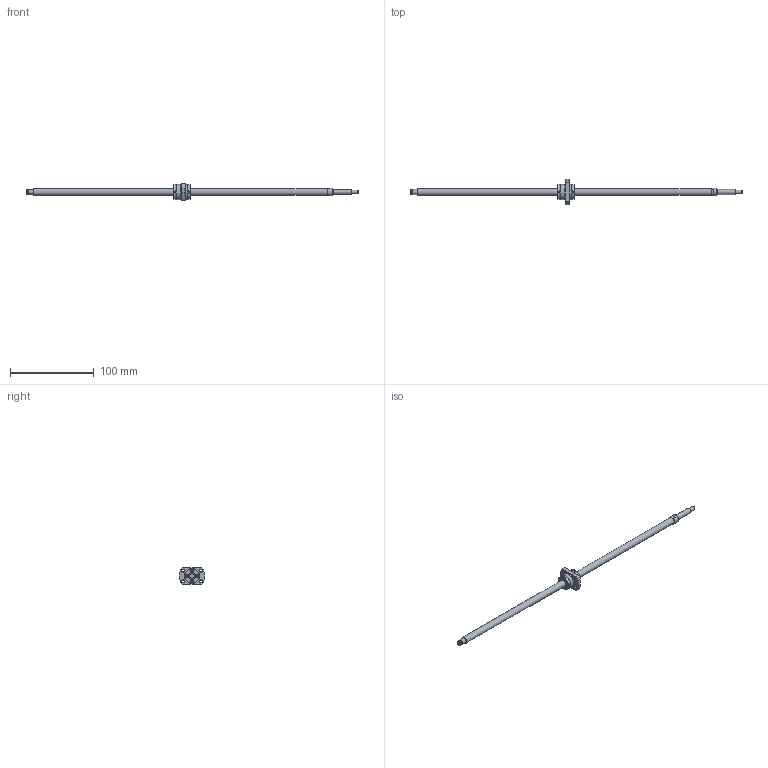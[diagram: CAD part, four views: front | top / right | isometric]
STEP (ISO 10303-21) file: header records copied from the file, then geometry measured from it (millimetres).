
FILE_DESCRIPTION(/* description */ ('STEP AP214'),/* implementation_level */ '2;1');
FILE_NAME(/* name */ 'SRT0808-347R397C7B0X(167.5Processing)',/* time_stamp */ '2026-08-04T20:04:23+02:00',/* author */ ('License CC BY-ND 4.0'),/* organization */ ('CADENAS'),/* preprocessor_version */ 'ST-DEVELOPER v20',/* originating_system */ 'PARTsolutions',/* authorisation */ ' ');
FILE_SCHEMA (('AUTOMOTIVE_DESIGN {1 0 10303 214 3 1 1}'));
Length unit declared in the file: millimetre
Products named in the file (3): SRT0808-347R397C7B0X(167.5Processing); SRT0808-347R430BCt7Processing46Shaft; SRT0808Nut
Assembly tree (2 placements, depth 2):
  SRT0808-347R397C7B0X(167.5Processing)
    SRT0808-347R430BCt7Processing46Shaft
    SRT0808Nut
Bounding box: 397 x 30.91 x 20 mm (x, y, z)
Volume: 24100.9 mm3; surface area: 12982.5 mm2
Topology: 2 solids, 2 shells, 155 faces, 366 edges, 241 vertices
Faces by surface type: plane 110, cylinder 35, cone 9, torus 1
Full cylindrical faces by diameter (mm): 3 x8, 3.4 x4, 4.5 x1, 5.7 x1, 6 x3, 8 x2, 9.5 x1, 17.5 x2, 17.7 x1, 18 x2
Entity records: 4367 total; most frequent: CARTESIAN_POINT 752, DIRECTION 738, ORIENTED_EDGE 664, EDGE_CURVE 332, AXIS2_PLACEMENT_3D 256, VERTEX_POINT 238, LINE 226, VECTOR 226
